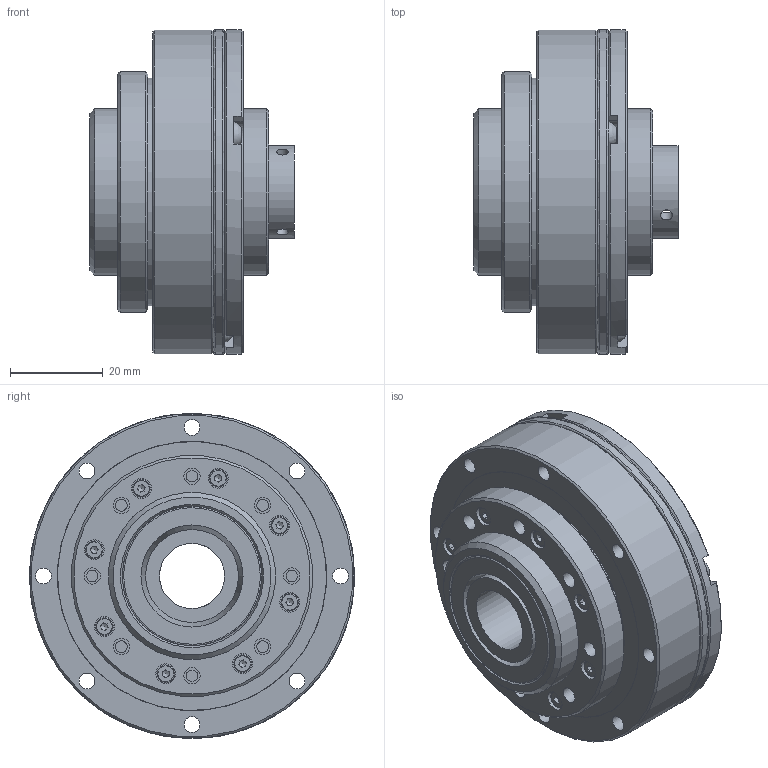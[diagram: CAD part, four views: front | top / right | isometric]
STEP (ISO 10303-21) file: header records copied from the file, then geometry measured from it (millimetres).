
FILE_DESCRIPTION (( 'STEP AP203' ), '1' );
FILE_NAME ('LHD-14-XXX-C(CL)-III.STEP', '2025-01-08T10:26:12', ( '' ), ( '' ), 'SwSTEP 2.0', 'SolidWorks 2023', '' );
FILE_SCHEMA (( 'CONFIG_CONTROL_DESIGN' ));
Length unit declared in the file: metre
Products named in the file (1): LHD-14-XXX-C(CL)-III
Bounding box: 44 x 70 x 70 mm (x, y, z)
Volume: 76460.1 mm3; surface area: 73564.5 mm2
Topology: 36 solids, 36 shells, 1110 faces, 2984 edges, 1940 vertices
Faces by surface type: plane 460, cylinder 287, bspline 275, cone 88
Full cylindrical faces by diameter (mm): 1.6 x16, 2 x16, 2.4 x24, 2.5 x15, 3 x4, 3.4 x8, 3.5 x30, 3.8 x16, 4.3 x24, 14 x2, 14.5 x1, 20 x5, 22 x2, 24 x6, 24.1 x1, 25.07 x1, 25.5 x1, 26.5 x2, 26.63 x2, 27.6 x3, 28 x4, 29.5 x1, 30 x6, 30.3 x2, 31.4 x1, 32 x4, 32.4 x2, 33.8 x1, 33.9 x1, 34.6 x1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
Entity records: 41758 total; most frequent: CARTESIAN_POINT 17722, ORIENTED_EDGE 4836, DIRECTION 4392, EDGE_CURVE 2418, AXIS2_PLACEMENT_3D 1894, EDGE_LOOP 1828, VERTEX_POINT 1816, FACE_OUTER_BOUND 1445
